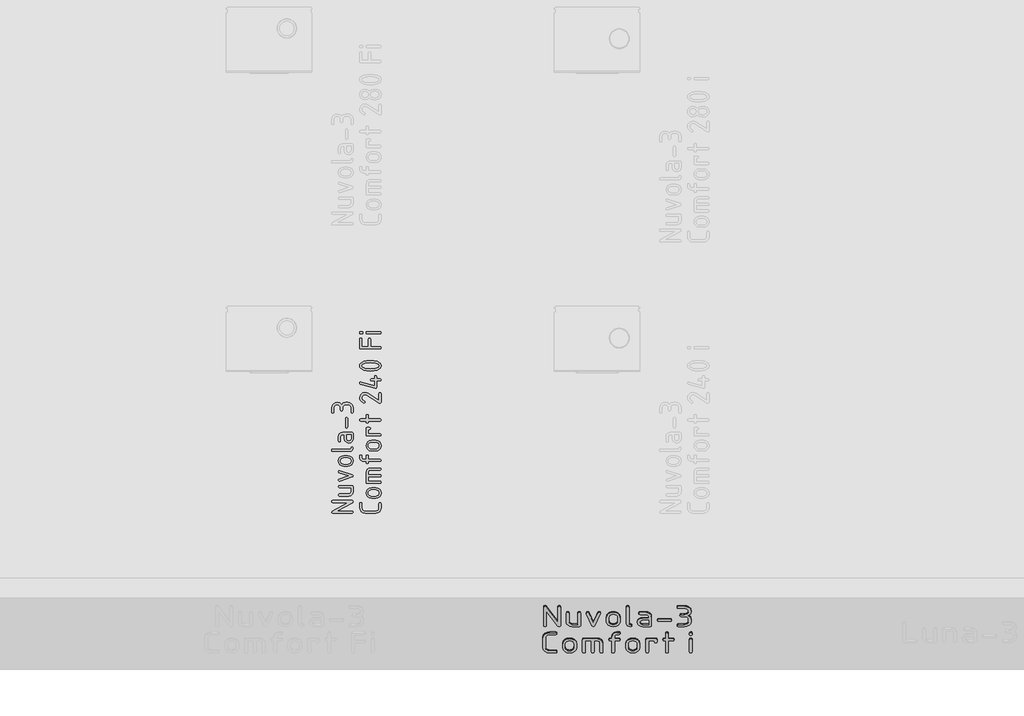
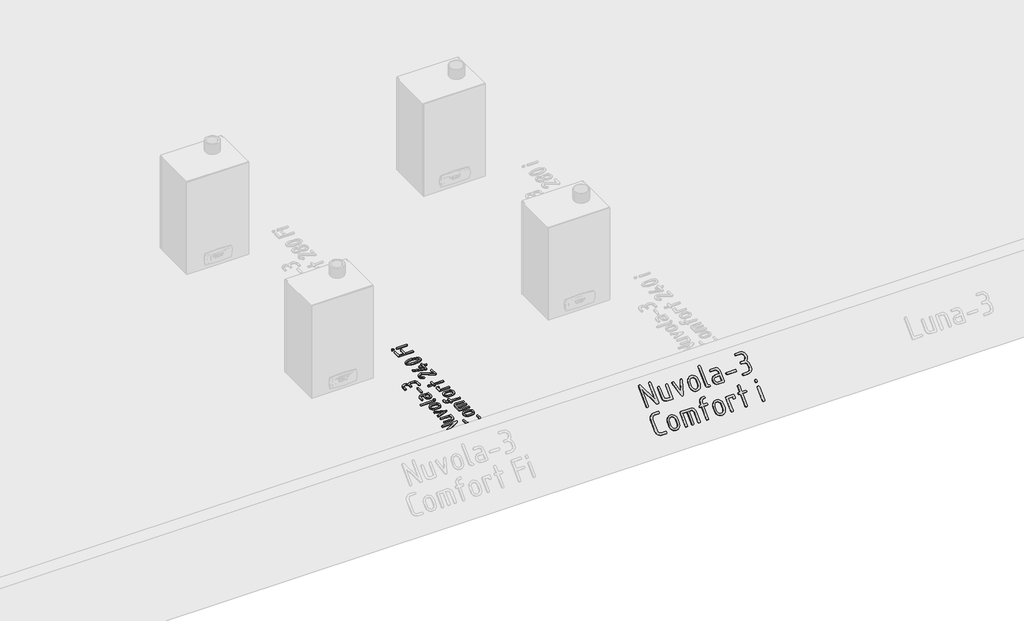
# One storey, part 4 of 37: 2 proxies.
"""IFC4 building model written with IfcOpenShell, lengths in millimetres."""

from ifc_helpers import new_model, si_unit, frame, origin, origin_with_axes, place, context, project, spatial, polyline, outline, extrude, element, save

model = new_model("IFC4")

# Units and contexts
model_context = context("Model", 3, world=origin())
ifc_project = project(units=[si_unit("LENGTHUNIT", "METRE", prefix="MILLI")], contexts=[model_context])

# Site, building, storey
site = spatial("IfcSite", under=ifc_project)
building = spatial("IfcBuilding", under=site)
storey = spatial("IfcBuildingStorey", under=building, Name="01_Стартовый вид_Площадка", Elevation=0.0)

# Proxies
placement = place(None, origin())
element("IfcBuildingElementProxy", 1, Name="200мм", ObjectType="200мм", at=placement, inside=storey, context=model_context, shape_type="SweptSolid", body=[
    extrude(outline(polyline([(165.9671598, 0.0), (40.6608856, 67.170734), (35.2139133, 72.9916979), (36.6196324, 80.9414621), (42.4620105, 86.5129444), (50.3250152, 85.1990626), (209.8569446, -0.3184174), (215.2284159, -6.2802276), (213.5961937, -14.6525307), (204.6529485, -20.7376114), (37.6998645, -20.2091043), (163.146985, -87.4553394), (168.5939573, -93.2763033), (167.1882381, -101.2260674), (161.3458601, -106.7975498), (153.4828554, -105.4836681), (-6.049074, -19.9661881), (-11.4457124, -14.0513265), (-9.8889912, -5.8198697), (-5.9444736, -1.6183991), (0.0, 0.0), (165.9671598, 0.0)])), frame((9886.0225318, -17788.7783658, 342.895709), z_axis=(0.0, -0.7071067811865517, 0.7071067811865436), x_axis=(0.4724529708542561, -0.6232127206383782, -0.6232127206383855)), (0.0, 0.0, 1.0), 10.0),
    extrude(outline(polyline([(7.8963813, 0.0), (121.2937941, -38.8098098), (127.5601634, -43.5725011), (127.5101015, -51.4095223), (111.503211, -98.1796552), (103.80573, -111.7461768), (91.4765408, -120.9968587), (76.511249, -124.9537749), (60.9054607, -122.6389988), (-24.1173995, -93.5402659), (-30.3578956, -88.7019763), (-30.230214, -80.6381603), (-25.39024, -74.1871075), (-17.4938587, -74.1871075), (67.1762096, -103.1650988), (82.2515298, -102.3002329), (92.2362967, -91.3041202), (104.7416798, -54.7649537), (1.2728405, -19.3531584), (-4.9676556, -14.5148688), (-4.8399741, -6.4510528), (0.0, 0.0), (7.8963813, 0.0)])), frame((10122.1098657, -17829.7126865, 301.9613883), z_axis=(0.0, -0.7071067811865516, 0.7071067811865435), x_axis=(0.32380687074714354, -0.6690101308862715, -0.6690101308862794)), (0.0, 0.0, 1.0), 10.0),
    extrude(outline(polyline([(96.1517088, 0.0), (19.2606322, 57.6472069), (15.5287173, 62.6149091), (15.8152429, 68.8515986), (20.5700797, 75.3083542), (28.3862454, 75.3786797), (31.3161309, 73.7258089), (131.0539392, -1.1025435), (135.7413426, -6.7405071), (135.7620595, -13.2342994), (131.8882837, -18.3988127), (124.8584474, -20.1499858), (0.0197136, -19.9445869), (-3.3153034, -19.5042778), (-8.9970028, -14.4888853), (-9.4886026, -6.8829879), (-5.9601388, -1.7013876), (0.0, 0.0), (96.1517088, 0.0)])), frame((10184.6474401, -17832.7731084, 298.9009664), z_axis=(0.0, -0.7071067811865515, 0.7071067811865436), x_axis=(0.31689249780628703, -0.6706635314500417, -0.6706635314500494)), (0.0, 0.0, 1.0), 10.0),
    extrude(outline(polyline([(19.5277269, 0.0), (58.788553, -7.3971647), (76.977393, -14.5033742), (90.8173497, -28.1486773), (98.6171829, -45.8732873), (98.6856532, -65.2174179), (91.5847544, -83.4140343), (77.9948347, -97.0679287), (60.19967, -104.6308689), (40.4830362, -104.5546222), (1.2222101, -97.1574575), (-16.96663, -90.0512481), (-30.8065866, -76.405945), (-38.6064198, -58.681335), (-38.6748901, -39.3372044), (-31.5717162, -21.3442893), (-17.856617, -7.6733255), (0.0, 0.0), (19.5277269, 0.0)]), holes=[polyline([(5.5853839, -77.1644064), (44.8985577, -84.5714339), (56.5989582, -84.6144501), (67.3060997, -80.1473936), (75.5187712, -72.1612621), (79.7357613, -61.6470531), (79.6340604, -50.3191559), (74.8906592, -39.89196), (66.5432132, -31.8348129), (55.6293779, -27.6170623), (16.3162041, -20.2100347), (4.5148066, -20.1276624), (-6.1812392, -24.5358276), (-14.3509512, -32.5097259), (-18.5733473, -43.1245527), (-18.4716465, -54.4524499), (-13.7282453, -64.8796457), (-5.3677123, -72.9392586), (5.5853839, -77.1644064)])]), frame((10308.9701672, -17905.0649832, 226.6090916), z_axis=(0.0, -0.7071067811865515, 0.7071067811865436), x_axis=(-0.1851531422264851, 0.6948806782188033, 0.6948806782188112)), (0.0, 0.0, 1.0), 10.0),
    extrude(outline(polyline([(160.9250531, 0.0), (168.4759059, -2.5569025), (170.9928568, -10.2276101), (168.4759059, -17.8983177), (160.9250531, -20.4552202), (0.0, -20.4552202), (-6.365622, -22.9521954), (-10.014535, -30.4431208), (-13.6767652, -37.9340461), (-20.0823387, -40.4310213), (-27.6331915, -37.9407047), (-30.1501423, -30.4697552), (-28.1525623, -18.1713203), (-22.159822, -8.4431052), (-12.6247063, -2.1107763), (0.0, 0.0), (160.9250531, 0.0)])), frame((10445.1318857, -17905.4699005, 226.2041743), z_axis=(0.0, -0.7071067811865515, 0.7071067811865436), x_axis=(0.0, 0.7071067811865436, 0.7071067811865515)), (0.0, 0.0, 1.0), 10.0),
    extrude(outline(polyline([(50.2324811, 0.0), (65.7203855, -2.9630771), (78.6247529, -11.8523086), (87.3342022, -25.0429959), (90.2373519, -40.9104405), (84.9104717, -61.5254671), (70.5678465, -76.7470275), (50.2324811, -81.820881), (10.2276102, -81.820881), (10.2276102, -100.5714995), (15.9806409, -113.9153346), (30.2034112, -119.3221182), (70.2082821, -119.3221182), (77.7191833, -121.8790207), (80.222817, -129.5497283), (77.7191833, -137.2204358), (70.2082821, -139.7773383), (30.2034112, -139.7773383), (14.628945, -136.8875059), (1.5714297, -128.2180082), (-7.2778501, -115.3402751), (-10.2276101, -99.8257363), (-10.2276101, -9.9612661), (-7.6707076, -2.4903165), (0.0, 0.0), (50.2324811, 0.0)]), holes=[polyline([(10.2276102, -61.3656607), (50.2324811, -61.3656607), (57.9231645, -59.8741343), (64.3753482, -55.3995548), (68.7500486, -48.7942233), (70.2082821, -40.9104405), (64.295445, -26.5012294), (57.8232854, -21.9667224), (50.2324811, -20.4552202), (10.2276102, -20.4552202), (10.2276102, -61.3656607)])]), frame((10612.1828512, -17926.7892706, 204.8848042), z_axis=(0.0, -0.7071067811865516, 0.7071067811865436), x_axis=(-1.0, 0.0, 0.0)), (0.0, 0.0, 1.0), 10.0),
    extrude(outline(polyline([(7.934191, 0.0), (83.6754056, -25.7842432), (89.9616024, -30.6252263), (89.8596757, -38.6935314), (85.0176197, -45.1481756), (77.0834286, -45.1481755), (1.3422141, -19.3639323), (-4.9439827, -14.5229492), (-4.8420559, -6.454644), (0.0, 0.0), (7.934191, 0.0)])), frame((10760.3766605, -17888.8212051, 242.8528697), z_axis=(0.0, -0.7071067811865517, 0.7071067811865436), x_axis=(-0.9466499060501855, -0.227874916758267, -0.22787491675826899)), (0.0, 0.0, 1.0), 10.0),
    extrude(outline(polyline([(11.7053441, 0.0), (31.3410585, 3.6703332), (39.1938897, 2.537007), (43.0643073, -4.5430923), (42.0127057, -12.5432218), (35.0994797, -16.4366385), (15.4637653, -20.1069717), (4.4652691, -24.43209), (-3.8154004, -32.787719), (-8.4170171, -43.7206871), (-8.3783556, -55.7778225), (-4.0517069, -66.9657026), (4.2497875, -75.5003524), (15.0165566, -80.3362531), (26.7390288, -80.4278864), (66.0628196, -73.0774325), (73.9156509, -74.2107586), (77.7860684, -81.2908578), (76.7344668, -89.2909873), (69.8212408, -93.184404), (30.49745, -100.5348579), (10.8458725, -100.387662), (-7.2665742, -92.3117814), (-21.2427029, -78.0977854), (-28.4853271, -59.5362437), (-27.7768506, -36.0744134), (-16.3140932, -15.6421798), (-34.2831279, -1.266837), (-43.2938981, 19.6873188), (-46.9348687, 39.1659475), (-46.7759269, 58.6097289), (-38.723534, 76.4129584), (-24.658181, 90.0971196), (-6.4603584, 97.1836959), (32.8634324, 104.5341498), (40.7162637, 103.4008237), (44.5866812, 96.3207245), (43.5350796, 88.320595), (36.6218536, 84.4271783), (-2.7019372, 77.0767244), (-13.7175616, 72.8432393), (-22.0496157, 64.7625103), (-26.727086, 54.235347), (-26.7789594, 42.6625591), (-23.177139, 23.393378), (-18.9410252, 12.6898456), (-10.7153843, 4.5610006), (0.0, 0.0), (11.7053441, 0.0)])), frame((10863.0256434, -17858.400611, 273.2734638), z_axis=(0.0, -0.7071067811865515, 0.7071067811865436), x_axis=(-0.9829750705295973, 0.12992307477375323, 0.12992307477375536)), (0.0, 0.0, 1.0), 10.0),
    extrude(outline(polyline([(40.0048709, 0.0), (47.5157721, -2.5569025), (50.0194058, -10.2276102), (47.5157721, -17.8983177), (40.0048709, -20.4552203), (0.0, -20.4552203), (-11.6059404, -22.6525583), (-21.2808867, -29.2445727), (-27.8129736, -38.952812), (-29.9903359, -50.498825), (-29.9903359, -150.6441742), (-27.7929978, -162.1901872), (-21.2009835, -171.8984266), (-11.5060614, -178.4904408), (0.0, -180.687779), (40.0048709, -180.687779), (47.5157721, -183.2446815), (50.0194058, -190.9153891), (47.5157721, -198.5860967), (40.0048709, -201.1429993), (0.0, -201.1429993), (-19.2899652, -197.4674519), (-35.6101946, -186.4408097), (-46.7367158, -170.1938249), (-50.4455562, -150.8572495), (-50.4455562, -50.2857498), (-46.7367158, -30.9491744), (-35.6101946, -14.7021895), (-19.2899652, -3.6755474), (0.0, 0.0), (40.0048709, 0.0)])), frame((9909.194461, -17969.373123, 162.3009518), z_axis=(0.0, -0.7071067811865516, 0.7071067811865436), x_axis=(1.0, 0.0, 0.0)), (0.0, 0.0, 1.0), 10.0),
    extrude(outline(polyline([(19.5277269, -1e-07), (58.788553, -7.3971648), (76.977393, -14.5033742), (90.8173496, -28.1486773), (98.6171829, -45.8732873), (98.6856532, -65.2174179), (91.5847544, -83.4140343), (77.9948346, -97.0679288), (60.19967, -104.6308689), (40.4830362, -104.5546223), (1.2222101, -97.1574576), (-16.96663, -90.0512481), (-30.8065866, -76.405945), (-38.6064198, -58.681335), (-38.6748903, -39.3372044), (-31.5717162, -21.3442893), (-17.856617, -7.6733255), (0.0, 0.0), (19.5277269, -1e-07)]), holes=[polyline([(5.5853839, -77.1644064), (44.8985576, -84.5714339), (56.5989582, -84.6144501), (67.3060997, -80.1473937), (75.5187712, -72.1612621), (79.7357613, -61.6470531), (79.6340604, -50.3191559), (74.8906592, -39.89196), (66.5432132, -31.8348129), (55.6293778, -27.6170623), (16.3162041, -20.2100347), (4.5148066, -20.1276624), (-6.1812392, -24.5358277), (-14.3509512, -32.5097259), (-18.5733473, -43.1245527), (-18.4716465, -54.4524499), (-13.7282453, -64.8796458), (-5.3677123, -72.9392586), (5.5853839, -77.1644064)])]), frame((10002.1418632, -18089.8784143, 41.7956605), z_axis=(0.0, -0.7071067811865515, 0.7071067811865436), x_axis=(-0.18515314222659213, 0.6948806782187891, 0.694880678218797)), (0.0, 0.0, 1.0), 10.0),
    extrude(outline(polyline([(8.0648268, 0.0), (95.6150094, -28.42341), (109.8146858, -36.0716859), (119.6837275, -48.390632), (124.1620709, -63.3839267), (122.1896524, -79.0552479), (94.4406404, -164.5281403), (89.701756, -170.8444537), (81.6369292, -170.8444538), (75.1100589, -166.1072187), (74.9850442, -158.211827), (102.618915, -73.0935938), (103.6105119, -65.2736838), (101.3875031, -57.8242881), (96.4501456, -51.7058983), (89.2986961, -47.8790061), (69.8431, -41.5626928), (36.0738519, -145.5792003), (31.3349676, -151.8955137), (23.2701407, -151.8955138), (16.7432704, -147.1582787), (16.6182557, -139.262887), (50.3875038, -35.2463794), (11.4763115, -22.6137527), (-22.2929366, -126.6302603), (-27.0318208, -132.9465737), (-35.0966477, -132.9465738), (-41.6235179, -128.2093387), (-41.7485328, -120.313947), (-4.7388843, -6.3163133), (0.0, 0.0), (8.0648268, 0.0)])), frame((10140.8604843, -18014.5261176, 117.1479572), z_axis=(0.0, -0.7071067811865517, 0.7071067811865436), x_axis=(0.9511311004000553, 0.21834563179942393, 0.21834563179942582)), (0.0, 0.0, 1.0), 10.0),
    extrude(outline(polyline([(7.934191, 0.0), (17.4144496, -3.2273221), (24.0064266, 16.1366103), (31.937533, 30.1983411), (44.6412243, 39.8077515), (59.9046176, 44.0019023), (75.51483, 41.8178539), (84.9950885, 38.5905318), (91.2434651, 33.7624237), (91.1289316, 25.6984102), (86.2994824, 19.2394745), (78.4031115, 19.2265995), (68.922853, 22.4539215), (61.1239831, 23.533272), (53.5614223, 21.3810086), (47.2914533, 16.5378797), (43.3703589, 9.5446333), (36.7783819, -9.8192991), (65.2191576, -19.5012652), (71.4675342, -24.3293733), (71.3530007, -32.3933868), (66.5235515, -38.8523226), (58.6271806, -38.8651975), (30.186405, -29.1832313), (-5.0566385, -132.7096717), (-9.8847467, -138.9580483), (-17.9487602, -138.8435149), (-24.4076959, -134.0140656), (-24.4205708, -126.1176947), (10.8224727, -22.5912544), (1.3422141, -19.3639323), (-4.9439827, -14.5229492), (-4.842056, -6.4546441), (0.0, 0.0), (7.934191, 0.0)])), frame((10325.3303482, -18014.573201, 117.1008738), z_axis=(0.0, -0.7071067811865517, 0.7071067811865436), x_axis=(0.9466499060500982, 0.22787491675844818, 0.22787491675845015)), (0.0, 0.0, 1.0), 10.0),
    extrude(outline(polyline([(19.5277269, 0.0), (58.788553, -7.3971647), (76.977393, -14.5033742), (90.8173496, -28.1486772), (98.6171829, -45.8732873), (98.6856532, -65.2174179), (91.5847544, -83.4140343), (77.9948347, -97.0679287), (60.19967, -104.6308688), (40.4830362, -104.5546222), (1.2222101, -97.1574575), (-16.96663, -90.051248), (-30.8065866, -76.405945), (-38.6064198, -58.681335), (-38.6748903, -39.3372044), (-31.5717162, -21.3442893), (-17.856617, -7.6733254), (0.0, 0.0), (19.5277269, 0.0)]), holes=[polyline([(5.5853839, -77.1644064), (44.8985576, -84.5714339), (56.5989582, -84.6144501), (67.3060997, -80.1473936), (75.5187712, -72.161262), (79.7357613, -61.6470531), (79.6340604, -50.3191559), (74.8906592, -39.8919599), (66.5432132, -31.8348129), (55.6293778, -27.6170623), (16.3162041, -20.2100347), (4.5148066, -20.1276624), (-6.1812392, -24.5358276), (-14.3509512, -32.5097259), (-18.5733473, -43.1245527), (-18.4716464, -54.4524498), (-13.7282453, -64.8796457), (-5.3677123, -72.9392586), (5.5853839, -77.1644064)])]), frame((10445.3383023, -18089.8784143, 41.7956605), z_axis=(0.0, -0.7071067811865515, 0.7071067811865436), x_axis=(-0.18515314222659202, 0.6948806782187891, 0.694880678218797)), (0.0, 0.0, 1.0), 10.0),
    extrude(outline(polyline([(119.8548062, 0.0), (127.3257557, -2.5569025), (129.8160723, -10.2276101), (129.8160723, -70.474626), (127.2591698, -77.9455756), (119.5884622, -80.4358921), (99.3463171, -80.4358921), (91.8354159, -77.9455756), (89.3317822, -70.474626), (91.8354159, -62.9637248), (99.3463171, -60.4600911), (109.3608521, -60.4600911), (109.3608521, -20.4552202), (0.0, -20.4552202), (-7.4709496, -17.8983177), (-9.9612662, -10.2276101), (-7.4709496, -2.5569025), (0.0, 0.0), (119.8548062, 0.0)])), frame((10581.5000208, -18104.5590229, 27.1150519), z_axis=(0.0, -0.7071067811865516, 0.7071067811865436), x_axis=(0.0, 0.7071067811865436, 0.7071067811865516)), (0.0, 0.0, 1.0), 10.0),
    extrude(outline(polyline([(109.3608521, 0.0), (109.3608521, 10.0145349), (111.9177546, 17.5254361), (119.5884622, 20.0290698), (127.2591698, 17.5254361), (129.8160723, 10.0145349), (129.8160723, 0.0), (180.9541229, 0.0), (188.6248306, -2.5569026), (191.1817331, -10.2276102), (188.6248306, -17.8983178), (180.9541229, -20.4552203), (129.8160723, -20.4552203), (129.8160723, -50.4988251), (127.2591698, -57.9697746), (119.5884622, -60.4600912), (111.9177546, -57.9697746), (109.3608521, -50.4988251), (109.3608521, -20.4552203), (0.0, -20.4552203), (-7.4709496, -17.8983178), (-9.9612662, -10.2276102), (-7.4709496, -2.5569026), (0.0, 0.0), (109.3608521, 0.0)])), frame((10721.2773592, -18104.5590229, 27.1150519), z_axis=(0.0, -0.7071067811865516, 0.7071067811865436), x_axis=(0.0, 0.7071067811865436, 0.7071067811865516)), (0.0, 0.0, 1.0), 10.0),
    extrude(outline(polyline([(-40.4252129, 16.4627758), (-34.1768363, 11.6346677), (-34.2913697, 3.5706542), (-39.120819, -2.8882816), (-47.0171899, -2.9011566), (-160.6290116, 35.7752082), (-166.9152084, 40.6161914), (-166.8132817, 48.6844966), (-161.9712257, 55.1391407), (-154.0370347, 55.1391406), (-40.4252129, 16.4627758)])), frame((10890.8852272, -17988.8468233, 142.8272515), z_axis=(0.0, -0.7071067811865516, 0.7071067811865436), x_axis=(-0.3222637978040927, 0.669382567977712, 0.6693825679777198)), (0.0, 0.0, 1.0), 10.0),
    extrude(outline(polyline([(7.9341911, 0.0), (17.4144496, -3.2273221), (23.7006464, -8.0683052), (23.5987197, -16.1366103), (18.7566637, -22.5912544), (10.8224726, -22.5912545), (1.3422141, -19.3639324), (-4.9439827, -14.5229493), (-4.8420559, -6.4546441), (0.0, 0.0), (7.9341911, 0.0)])), frame((10890.8852272, -17988.8468233, 142.8272515), z_axis=(0.0, -0.7071067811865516, 0.7071067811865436), x_axis=(-0.3222637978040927, 0.669382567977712, 0.6693825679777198)), (0.0, 0.0, 1.0), 10.0),
])
element("IfcBuildingElementProxy", 2, Name="150 мм", ObjectType="150 мм", at=placement, inside=storey, context=model_context, shape_type="SweptSolid", body=[
    extrude(outline(polyline([(8493.5127035, -17064.7369373), (8386.8818775, -17064.7369373), (8381.2187379, -17062.8192604), (8379.3310247, -17057.0662297), (8381.2187379, -17051.313199), (8386.8818775, -17049.3955221), (8522.6374214, -17049.3955221), (8528.300561, -17051.4330538), (8530.1882742, -17057.5456489), (8526.4328236, -17064.7369373), (8415.8867406, -17123.5456956), (8522.6374214, -17123.5456956), (8528.300561, -17125.4633725), (8530.1882742, -17131.2164032), (8528.300561, -17136.9694339), (8522.6374214, -17138.8871108), (8386.8818775, -17138.8871108), (8381.2187379, -17136.8895307), (8379.3310247, -17130.8967904), (8383.8056042, -17123.5456956), (8493.5127035, -17064.7369373)])), origin_with_axes(), (0.0, 0.0, 1.0), 10.0),
    extrude(outline(polyline([(8432.8262199, -16944.5625183), (8522.7173246, -16944.5625183), (8528.3205368, -16946.4202678), (8530.1882742, -16951.9935163), (8530.1882742, -16989.068603), (8528.0208998, -17000.5646765), (8521.5187765, -17010.1230973), (8511.8604767, -17016.5652931), (8500.2245726, -17018.7126917), (8432.8262199, -17018.7126917), (8427.2230077, -17016.7950148), (8425.3552703, -17011.0419841), (8427.2230077, -17005.2889534), (8432.8262199, -17003.3712765), (8499.9449114, -17003.3712765), (8510.4322069, -16999.0964551), (8514.846859, -16988.868845), (8514.846859, -16959.9039335), (8432.8262199, -16959.9039335), (8427.2230077, -16957.9862566), (8425.3552703, -16952.2332259), (8427.2230077, -16946.4801952), (8432.8262199, -16944.5625183)])), origin_with_axes(), (0.0, 0.0, 1.0), 10.0),
    extrude(outline(polyline([(8498.8662181, -16876.7246979), (8430.4690754, -16853.9922364), (8425.3552703, -16846.8408996), (8427.2030319, -16841.1178326), (8432.7463167, -16839.2101436), (8435.223316, -16839.6895628), (8523.9558242, -16869.2137968), (8528.6301617, -16872.1102879), (8530.1882742, -16876.7246979), (8528.6601254, -16881.3191322), (8524.0756791, -16884.2355991), (8435.223316, -16913.7598331), (8432.7463167, -16914.2392523), (8427.5126568, -16912.0219384), (8425.3552703, -16906.7283511), (8426.6337216, -16902.2038322), (8430.4690754, -16899.5770143), (8498.8662181, -16876.7246979)])), origin_with_axes(), (0.0, 0.0, 1.0), 10.0),
    extrude(outline(polyline([(8492.753623, -16809.046684), (8462.7899215, -16809.046684), (8448.3973568, -16806.334969), (8436.3020093, -16798.1998241), (8428.0919551, -16786.2193374), (8425.3552703, -16771.9715973), (8428.0619914, -16757.5740387), (8436.1821545, -16745.6235157), (8448.2475383, -16737.5782619), (8462.7899215, -16734.8965106), (8492.753623, -16734.8965106), (8507.1461877, -16737.6082256), (8519.2415352, -16745.7433705), (8527.4515894, -16757.7238572), (8530.1882742, -16771.9715973), (8527.4515894, -16786.2193374), (8519.2415352, -16798.1998241), (8507.1461877, -16806.334969), (8492.753623, -16809.046684)]), holes=[polyline([(8492.3141554, -16750.2379258), (8462.3105022, -16750.2379258), (8453.6809562, -16751.8309959), (8446.4097646, -16756.6102063), (8441.4657539, -16763.6366943), (8439.8177503, -16771.9715973), (8441.4657539, -16780.3065003), (8446.4097646, -16787.3329883), (8453.6809562, -16792.1121987), (8462.3105022, -16793.7052688), (8492.3141554, -16793.7052688), (8501.0236047, -16792.1271806), (8508.2947962, -16787.3929157), (8513.2088433, -16780.3814095), (8514.846859, -16771.9715973), (8513.1988554, -16763.6366943), (8508.2548446, -16756.6102063), (8500.9736651, -16751.8309959), (8492.3141554, -16750.2379258)])]), origin_with_axes(), (0.0, 0.0, 1.0), 10.0),
    extrude(outline(polyline([(8386.8818775, -16704.2136802), (8381.2187379, -16702.2960033), (8379.3310247, -16696.5429726), (8381.2187379, -16690.7899419), (8386.8818775, -16688.872265), (8507.5756674, -16688.872265), (8512.3498838, -16686.9995336), (8515.0865686, -16681.3813396), (8517.8332412, -16675.7631456), (8522.6374214, -16673.8904142), (8528.300561, -16675.7581516), (8530.1882742, -16681.3613638), (8528.6900891, -16690.5851899), (8524.1955339, -16697.8813513), (8517.0441971, -16702.6305979), (8507.5756674, -16704.2136802), (8386.8818775, -16704.2136802)])), origin_with_axes(), (0.0, 0.0, 1.0), 10.0),
    extrude(outline(polyline([(8530.1882742, -16616.5998168), (8527.9659663, -16628.2157451), (8521.2990427, -16637.8940207), (8511.4060272, -16644.4261077), (8499.5054438, -16646.60347), (8484.0441738, -16642.6083098), (8472.6280035, -16631.8513409), (8468.8226134, -16616.5998168), (8468.8226134, -16586.5961637), (8454.7596494, -16586.5961637), (8444.7517731, -16590.9109367), (8440.6966855, -16601.5780144), (8440.6966855, -16631.5816676), (8438.7790086, -16637.2148435), (8433.0259779, -16639.0925688), (8427.2729472, -16637.2148435), (8425.3552703, -16631.5816676), (8425.3552703, -16601.5780144), (8427.5226447, -16589.8971648), (8434.024768, -16580.1040283), (8443.6830678, -16573.4670684), (8455.3189719, -16571.2547485), (8522.7173246, -16571.2547485), (8528.3205368, -16573.1724254), (8530.1882742, -16578.9254561), (8530.1882742, -16616.5998168)]), holes=[polyline([(8484.1640286, -16586.5961637), (8484.1640286, -16616.5998168), (8488.638608, -16627.2069672), (8499.5054438, -16631.5816676), (8510.3123521, -16627.1470398), (8514.846859, -16616.5998168), (8514.846859, -16586.5961637), (8484.1640286, -16586.5961637)])]), origin_with_axes(), (0.0, 0.0, 1.0), 10.0),
    extrude(outline(polyline([(8491.8347362, -16473.413275), (8491.8347362, -16533.4205813), (8489.9170593, -16539.0537572), (8484.1640286, -16540.9314825), (8478.4109979, -16539.0537572), (8476.493321, -16533.4205813), (8476.493321, -16473.413275), (8478.4109979, -16467.7800991), (8484.1640286, -16465.9023738), (8489.9170593, -16467.7800991), (8491.8347362, -16473.413275)])), origin_with_axes(), (0.0, 0.0, 1.0), 10.0),
    extrude(outline(polyline([(8456.0381007, -16399.4229079), (8456.0381007, -16414.4047587), (8454.1204238, -16420.0379346), (8448.3673931, -16421.9156599), (8442.6143624, -16420.0379346), (8440.6966855, -16414.4047587), (8440.6966855, -16399.4229079), (8439.0237122, -16390.7184526), (8434.0047922, -16383.4622429), (8426.5787881, -16378.5631777), (8417.6845627, -16376.930156), (8408.8402768, -16378.5781596), (8401.4042849, -16383.5221703), (8396.3554012, -16390.7933619), (8394.6724399, -16399.4229079), (8394.6724399, -16429.4265611), (8392.754763, -16435.059737), (8387.0017323, -16436.9374623), (8381.2487016, -16435.059737), (8379.3310247, -16429.4265611), (8379.3310247, -16399.4229079), (8382.1476127, -16384.955434), (8390.5973765, -16372.7152619), (8403.002349, -16364.3703711), (8417.6845627, -16361.5887408), (8434.8837274, -16365.3441914), (8448.3673931, -16376.6105432), (8461.4415549, -16365.3441914), (8478.1313367, -16361.5887408), (8492.9933326, -16361.5887408), (8507.3059941, -16364.3853529), (8519.3214384, -16372.7751894), (8527.4715652, -16385.0303433), (8530.1882742, -16399.4229079), (8530.1882742, -16429.4265611), (8528.2705973, -16435.059737), (8522.5175666, -16436.9374623), (8516.7645359, -16435.059737), (8514.846859, -16429.4265611), (8514.846859, -16399.4229079), (8513.2438009, -16390.7184526), (8508.4346268, -16383.4622429), (8501.3182477, -16378.5631777), (8492.7935746, -16376.930156), (8478.0913851, -16376.930156), (8469.6166515, -16378.5781596), (8462.4902844, -16383.5221703), (8457.6511466, -16390.7933619), (8456.0381007, -16399.4229079)])), origin_with_axes(), (0.0, 0.0, 1.0), 10.0),
    extrude(outline(polyline([(8575.3552703, -17071.0492905), (8577.2729472, -17065.4161146), (8583.0259779, -17063.5383893), (8588.7790086, -17065.4161146), (8590.6966855, -17071.0492905), (8590.6966855, -17101.0529436), (8592.3446891, -17109.7573989), (8597.2886999, -17117.0136086), (8604.5698793, -17121.9126738), (8613.2293891, -17123.5456956), (8688.338401, -17123.5456956), (8696.9979107, -17121.897692), (8704.2790902, -17116.9536812), (8709.223101, -17109.6824897), (8710.8711046, -17101.0529436), (8710.8711046, -17071.0492905), (8712.7887815, -17065.4161146), (8718.5418122, -17063.5383893), (8724.2948429, -17065.4161146), (8726.2125198, -17071.0492905), (8726.2125198, -17101.0529436), (8723.4558592, -17115.5204175), (8715.1858776, -17127.7605896), (8703.000639, -17136.1054805), (8688.4982074, -17138.8871108), (8613.0695827, -17138.8871108), (8598.5671511, -17136.1054805), (8586.3819125, -17127.7605896), (8578.1119309, -17115.5204175), (8575.3552703, -17101.0529436), (8575.3552703, -17071.0492905)])), origin_with_axes(), (0.0, 0.0, 1.0), 10.0),
    extrude(outline(polyline([(8688.7778686, -17034.0541069), (8658.8141671, -17034.0541069), (8644.4216024, -17031.3423919), (8632.3262549, -17023.207247), (8624.1162007, -17011.2267603), (8621.3795159, -16996.9790202), (8624.086237, -16982.5814616), (8632.2064001, -16970.6309386), (8644.2717839, -16962.5856848), (8658.8141671, -16959.9039335), (8688.7778686, -16959.9039335), (8703.1704333, -16962.6156485), (8715.2657808, -16970.7507934), (8723.475835, -16982.7312801), (8726.2125198, -16996.9790202), (8723.475835, -17011.2267603), (8715.2657808, -17023.207247), (8703.1704333, -17031.3423919), (8688.7778686, -17034.0541069)]), holes=[polyline([(8688.338401, -16975.2453487), (8658.3347478, -16975.2453487), (8649.7052018, -16976.8384188), (8642.4340102, -16981.6176292), (8637.4899994, -16988.6441172), (8635.8419959, -16996.9790202), (8637.4899994, -17005.3139232), (8642.4340102, -17012.3404112), (8649.7052018, -17017.1196216), (8658.3347478, -17018.7126917), (8688.338401, -17018.7126917), (8697.0478502, -17017.1346034), (8704.3190418, -17012.4003386), (8709.2330889, -17005.3888324), (8710.8711046, -16996.9790202), (8709.223101, -16988.6441172), (8704.2790902, -16981.6176292), (8696.9979107, -16976.8384188), (8688.338401, -16975.2453487)])]), origin_with_axes(), (0.0, 0.0, 1.0), 10.0),
    extrude(outline(polyline([(8621.3795159, -16921.5503955), (8621.3795159, -16852.5140271), (8623.5468903, -16840.6134436), (8630.0490136, -16830.7204282), (8639.7073134, -16824.0535046), (8651.3432175, -16821.8311967), (8718.7415702, -16821.8311967), (8724.3447824, -16823.7488736), (8726.2125198, -16829.5019043), (8724.3447824, -16835.254935), (8718.7415702, -16837.1726119), (8651.6228787, -16837.1726119), (8641.0157283, -16841.5872639), (8636.7209311, -16852.5140271), (8636.7209311, -16867.8554423), (8718.7415702, -16867.8554423), (8724.3447824, -16869.7731192), (8726.2125198, -16875.5261499), (8724.3447824, -16881.2791806), (8718.7415702, -16883.1968575), (8636.7209311, -16883.1968575), (8636.7209311, -16913.8796879), (8718.7415702, -16913.8796879), (8724.3447824, -16915.7973648), (8726.2125198, -16921.5503955), (8724.3447824, -16927.3034262), (8718.7415702, -16929.2211031), (8628.8504655, -16929.2211031), (8623.2472533, -16927.3034262), (8621.3795159, -16921.5503955)])), origin_with_axes(), (0.0, 0.0, 1.0), 10.0),
    extrude(outline(polyline([(8621.3795159, -16783.3178523), (8621.3795159, -16775.8069511), (8606.0381007, -16775.8069511), (8594.1375172, -16773.5746553), (8584.2445018, -16766.877768), (8577.5775782, -16757.0546679), (8575.3552703, -16745.4437335), (8575.3552703, -16737.9328323), (8577.2729472, -16732.3296201), (8583.0259779, -16730.4618827), (8588.7790086, -16732.3296201), (8590.6966855, -16737.9328323), (8590.6966855, -16745.4437335), (8595.1712649, -16756.0908355), (8606.0381007, -16760.4655359), (8621.3795159, -16760.4655359), (8621.3795159, -16737.9328323), (8623.2971928, -16732.3296201), (8629.0502235, -16730.4618827), (8634.8032542, -16732.3296201), (8636.7209311, -16737.9328323), (8636.7209311, -16760.4655359), (8718.7415702, -16760.4655359), (8724.3447824, -16762.3832128), (8726.2125198, -16768.1362435), (8724.3447824, -16773.8892742), (8718.7415702, -16775.8069511), (8636.7209311, -16775.8069511), (8636.7209311, -16783.3178523), (8634.8032542, -16788.9510282), (8629.0502235, -16790.8287535), (8623.2971928, -16788.9510282), (8621.3795159, -16783.3178523)])), origin_with_axes(), (0.0, 0.0, 1.0), 10.0),
    extrude(outline(polyline([(8688.7778686, -16701.6567776), (8658.8141671, -16701.6567776), (8644.4216024, -16698.9450627), (8632.3262549, -16690.8099177), (8624.1162007, -16678.829431), (8621.3795159, -16664.5816909), (8624.086237, -16650.1841323), (8632.2064001, -16638.2336094), (8644.2717839, -16630.1883555), (8658.8141671, -16627.5066042), (8688.7778686, -16627.5066042), (8703.1704333, -16630.2183192), (8715.2657808, -16638.3534642), (8723.475835, -16650.3339508), (8726.2125198, -16664.5816909), (8723.475835, -16678.829431), (8715.2657808, -16690.8099177), (8703.1704333, -16698.9450627), (8688.7778686, -16701.6567776)]), holes=[polyline([(8688.338401, -16642.8480194), (8658.3347478, -16642.8480194), (8649.7052018, -16644.4410895), (8642.4340102, -16649.2202999), (8637.4899994, -16656.2467879), (8635.8419959, -16664.5816909), (8637.4899994, -16672.9165939), (8642.4340102, -16679.9430819), (8649.7052018, -16684.7222923), (8658.3347478, -16686.3153625), (8688.338401, -16686.3153625), (8697.0478502, -16684.7372742), (8704.3190418, -16680.0030093), (8709.2330889, -16672.9915032), (8710.8711046, -16664.5816909), (8709.223101, -16656.2467879), (8704.2790902, -16649.2202999), (8696.9979107, -16644.4410895), (8688.338401, -16642.8480194)])]), origin_with_axes(), (0.0, 0.0, 1.0), 10.0),
    extrude(outline(polyline([(8628.8504655, -16596.8237738), (8623.2472533, -16594.9060969), (8621.3795159, -16589.1530662), (8621.3795159, -16543.9678043), (8623.2971928, -16538.3645921), (8629.0502235, -16536.4968547), (8644.2318323, -16536.4968547), (8649.8650082, -16538.3645921), (8651.7427335, -16543.9678043), (8649.8650082, -16549.6009801), (8644.2318323, -16551.4787054), (8636.7209311, -16551.4787054), (8636.7209311, -16581.4823586), (8718.7415702, -16581.4823586), (8724.3447824, -16583.4000355), (8726.2125198, -16589.1530662), (8724.3447824, -16594.9060969), (8718.7415702, -16596.8237738), (8628.8504655, -16596.8237738)])), origin_with_axes(), (0.0, 0.0, 1.0), 10.0),
    extrude(outline(polyline([(8636.7209311, -16491.9907699), (8636.7209311, -16499.5016711), (8634.8032542, -16505.134847), (8629.0502235, -16507.0125723), (8623.2971928, -16505.134847), (8621.3795159, -16499.5016711), (8621.3795159, -16491.9907699), (8583.0259779, -16491.9907699), (8577.2729472, -16490.073093), (8575.3552703, -16484.3200624), (8577.2729472, -16478.5670317), (8583.0259779, -16476.6493548), (8621.3795159, -16476.6493548), (8621.3795159, -16454.1166512), (8623.2971928, -16448.513439), (8629.0502235, -16446.6457016), (8634.8032542, -16448.513439), (8636.7209311, -16454.1166512), (8636.7209311, -16476.6493548), (8718.7415702, -16476.6493548), (8724.3447824, -16478.5670317), (8726.2125198, -16484.3200624), (8724.3447824, -16490.073093), (8718.7415702, -16491.9907699), (8636.7209311, -16491.9907699)])), origin_with_axes(), (0.0, 0.0, 1.0), 10.0),
    extrude(outline(polyline([(8575.3552703, -16329.5475559), (8578.1069369, -16315.1200336), (8586.3619367, -16302.9997163), (8598.5222056, -16294.7746802), (8612.9896795, -16292.0330016), (8623.7865999, -16293.7409325), (8634.6833994, -16298.8647255), (8710.8711046, -16346.1274708), (8710.8711046, -16299.5439027), (8712.7887815, -16293.9107269), (8718.5418122, -16292.0330016), (8724.2948429, -16293.9107269), (8726.2125198, -16299.5439027), (8726.2125198, -16359.5512091), (8724.3347945, -16365.184385), (8718.7016186, -16367.0621103), (8714.3468939, -16365.783659), (8625.7342405, -16310.8102545), (8613.2693407, -16307.0548039), (8604.604837, -16308.7028075), (8597.3086757, -16313.6468183), (8592.3496831, -16320.9180099), (8590.6966855, -16329.5475559), (8595.4109746, -16341.782734), (8609.5538417, -16353.0790495), (8613.1894375, -16359.5512091), (8611.3117122, -16365.184385), (8605.6785363, -16367.0621103), (8602.6022629, -16366.3429814), (8582.1670185, -16350.1725705), (8577.0582074, -16340.4168886), (8575.3552703, -16329.5475559)])), origin_with_axes(), (0.0, 0.0, 1.0), 10.0),
    extrude(outline(polyline([(8688.0187882, -16263.2678481), (8685.9812565, -16263.0281384), (8580.8286398, -16233.0244853), (8576.7236127, -16230.4076554), (8575.3552703, -16225.7532937), (8577.2230077, -16220.1201178), (8582.8262199, -16218.2423925), (8584.9836064, -16218.6019569), (8680.1882742, -16245.8489496), (8680.1882742, -16210.7314913), (8657.6555706, -16210.7314913), (8652.0523584, -16208.8138144), (8650.184621, -16203.0607837), (8652.0523584, -16197.307753), (8657.6555706, -16195.3900761), (8680.1882742, -16195.3900761), (8680.1882742, -16180.3682737), (8682.1059511, -16174.7650616), (8687.8589818, -16172.8973242), (8693.6120125, -16174.7650616), (8695.5296894, -16180.3682737), (8695.5296894, -16195.3900761), (8718.5418122, -16195.3900761), (8724.2948429, -16197.307753), (8726.2125198, -16203.0607837), (8724.2948429, -16208.8138144), (8718.5418122, -16210.7314913), (8695.5296894, -16210.7314913), (8695.5296894, -16255.7569469), (8693.6519641, -16261.3901228), (8688.0187882, -16263.2678481)])), origin_with_axes(), (0.0, 0.0, 1.0), 10.0),
    extrude(outline(polyline([(8650.783895, -16067.5449495), (8675.9234406, -16069.1729773), (8697.4074147, -16074.0570606), (8719.0112435, -16086.472021), (8724.4122007, -16094.8293967), (8726.2125198, -16104.6200362), (8724.4196916, -16114.4106757), (8719.0412072, -16122.7680515), (8697.5272695, -16135.1830118), (8676.0133318, -16140.0670952), (8650.783895, -16141.6951229), (8625.5544583, -16140.0670952), (8604.0405206, -16135.1830118), (8582.5265829, -16122.7680515), (8577.1480985, -16114.4106757), (8575.3552703, -16104.6200362), (8577.1555894, -16094.8293967), (8582.5565466, -16086.472021), (8604.1603754, -16074.0570606), (8625.6443494, -16069.1729773), (8650.783895, -16067.5449495)]), holes=[polyline([(8650.783895, -16082.8863647), (8615.6264852, -16086.7217185), (8596.9291354, -16094.1127649), (8590.6966855, -16104.6200362), (8596.9590991, -16115.0374165), (8615.74634, -16122.3984991), (8650.783895, -16126.3537077), (8685.9413049, -16122.5183539), (8704.6386546, -16115.1273076), (8710.8711046, -16104.6200362), (8704.6386546, -16094.1127649), (8685.9413049, -16086.7217185), (8650.783895, -16082.8863647)])]), origin_with_axes(), (0.0, 0.0, 1.0), 10.0),
    extrude(outline(polyline([(8718.661667, -15985.7240684), (8582.9061231, -15985.7240684), (8577.2429835, -15983.8063915), (8575.3552703, -15978.0533608), (8575.3552703, -15917.8862481), (8577.2729472, -15912.2530722), (8583.0259779, -15910.3753469), (8588.7790086, -15912.2530722), (8590.6966855, -15917.8862481), (8590.6966855, -15970.3826532), (8636.7209311, -15970.3826532), (8636.7209311, -15917.8862481), (8638.638608, -15912.2530722), (8644.3916387, -15910.3753469), (8650.1446694, -15912.2530722), (8652.0623463, -15917.8862481), (8652.0623463, -15970.3826532), (8718.7815218, -15970.3826532), (8724.3547703, -15972.3003301), (8726.2125198, -15978.0533608), (8724.3248066, -15983.8063915), (8718.661667, -15985.7240684)])), origin_with_axes(), (0.0, 0.0, 1.0), 10.0),
    extrude(outline(polyline([(8590.3770727, -15880.8910646), (8582.8661715, -15880.8910646), (8577.2329956, -15878.9733877), (8575.3552703, -15873.220357), (8577.2329956, -15867.4673263), (8582.8661715, -15865.5496494), (8590.3770727, -15865.5496494), (8596.0102486, -15867.4673263), (8597.8879739, -15873.220357), (8596.0102486, -15878.9733877), (8590.3770727, -15880.8910646)])), origin_with_axes(), (0.0, 0.0, 1.0), 10.0),
    extrude(outline(polyline([(8628.6906591, -15880.8910646), (8623.0874469, -15878.9733877), (8621.2197095, -15873.220357), (8623.0874469, -15867.4673263), (8628.6906591, -15865.5496494), (8718.7016186, -15865.5496494), (8724.3347945, -15867.4673263), (8726.2125198, -15873.220357), (8724.3347945, -15878.9733877), (8718.7016186, -15880.8910646), (8628.6906591, -15880.8910646)])), origin_with_axes(), (0.0, 0.0, 1.0), 10.0),
])

save(model, "model.ifc")
